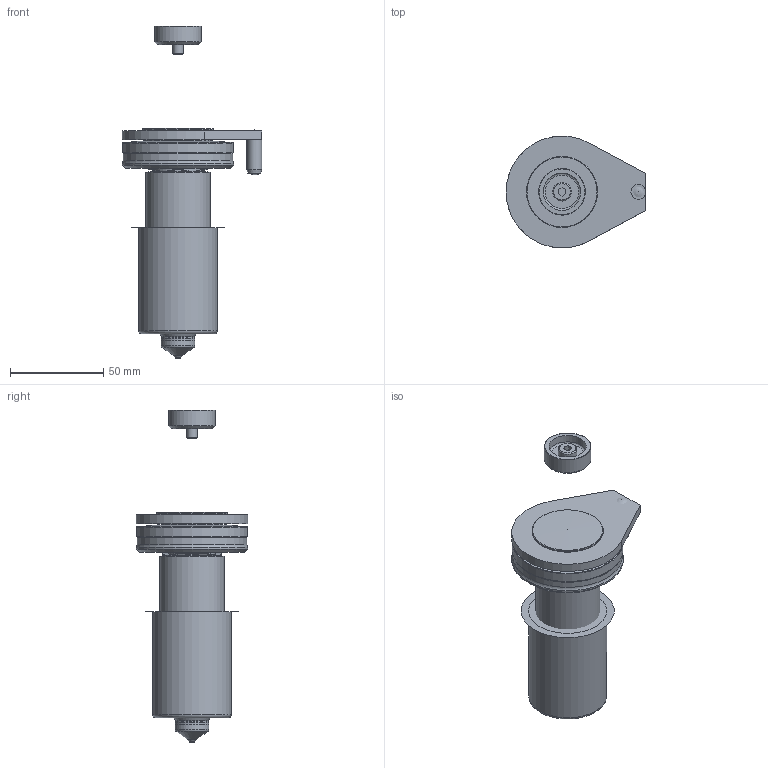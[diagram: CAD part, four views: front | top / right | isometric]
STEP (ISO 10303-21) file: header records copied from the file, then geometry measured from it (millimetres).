
FILE_DESCRIPTION(/* description */ (''),/* implementation_level */ '2;1');
FILE_NAME(/* name */ 'U1000 HT-T.stp',/* time_stamp */ '2021-12-23T10:43:00+08:00',/* author */ (''),/* organization */ (''),/* preprocessor_version */ 'ST-DEVELOPER v16',/* originating_system */ 'SIEMENS PLM Software NX 11.0',/* authorisation */ '');
FILE_SCHEMA (('AUTOMOTIVE_DESIGN { 1 0 10303 214 3 1 1 1 }'));
Length unit declared in the file: millimetre
Products named in the file (15): 3D_EXPORT_3D_ASSY_11312545_0_id6_x_t; 3D_EXPORT_3D_ASSY_11312545_0_id11_x_t; 3D_EXPORT_3D_ASSY_11312545_0_id16_x_t; 3D_EXPORT_3D_ASSY_11312545_0_id21_x_t; 3D_EXPORT_3D_ASSY_11312545_0_id26_x_t; 3D_EXPORT_3D_ASSY_11312545_0_id31_x_t; 3D_EXPORT_3D_ASSY_11312545_0_id36_x_t; 3D_EXPORT_3D_ASSY_11312545_0_id41_x_t; 3D_EXPORT_3D_ASSY_11312545_0_id46_x_t; 3D_EXPORT_3D_ASSY_11312545_0_id51_x_t; 3D_EXPORT_3D_ASSY_11312545_0_id56_x_t; 3D_EXPORT_3D_ASSY_11312545_0_id61_x_t; 3D_EXPORT_3D_ASSY_11312545_0_id66_x_t; 3D_EXPORT_3D_ASSY_11312545_0_id73_x_t; 3D_EXPORT_3D_ASSY_11312545_0_x_t
Assembly tree (16 placements, depth 2):
  3D_EXPORT_3D_ASSY_11312545_0_x_t
    3D_EXPORT_3D_ASSY_11312545_0_id73_x_t  x2
    3D_EXPORT_3D_ASSY_11312545_0_id66_x_t  x2
    3D_EXPORT_3D_ASSY_11312545_0_id61_x_t
    3D_EXPORT_3D_ASSY_11312545_0_id56_x_t
    3D_EXPORT_3D_ASSY_11312545_0_id51_x_t
    3D_EXPORT_3D_ASSY_11312545_0_id46_x_t
    3D_EXPORT_3D_ASSY_11312545_0_id41_x_t
    3D_EXPORT_3D_ASSY_11312545_0_id36_x_t
    3D_EXPORT_3D_ASSY_11312545_0_id31_x_t
    3D_EXPORT_3D_ASSY_11312545_0_id26_x_t
    3D_EXPORT_3D_ASSY_11312545_0_id21_x_t
    3D_EXPORT_3D_ASSY_11312545_0_id16_x_t
    3D_EXPORT_3D_ASSY_11312545_0_id11_x_t
    3D_EXPORT_3D_ASSY_11312545_0_id6_x_t
Bounding box: 75 x 59.99 x 178.15 mm (x, y, z)
Volume: 287085.1 mm3; surface area: 70895.3 mm2
Topology: 16 solids, 16 shells, 368 faces, 995 edges, 645 vertices
Faces by surface type: cylinder 223, plane 87, torus 30, cone 26, sphere 2
Full cylindrical faces by diameter (mm): 3 x1, 5.795 x1, 6 x1, 8 x1, 10 x1, 10.92 x1, 14 x1, 17.6 x1, 17.7 x1, 17.997 x1, 18.01 x1, 18.075 x1, 18.1 x1, 19.925 x1, 20 x1, 24.33 x1, 25 x1, 25.4 x2, 25.41 x3, 25.43 x1, 27.27 x1, 31.75 x2, 32.55 x1, 34.44 x1, 38.1 x1, 42 x1, 50 x1, 58.795 x1, 59.5 x1, 59.99 x1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
Entity records: 9595 total; most frequent: CARTESIAN_POINT 2107, ORIENTED_EDGE 1042, DIRECTION 1024, EDGE_CURVE 521, AXIS2_PLACEMENT_3D 427, EDGE_LOOP 394, VERTEX_POINT 381, ADVANCED_FACE 260
